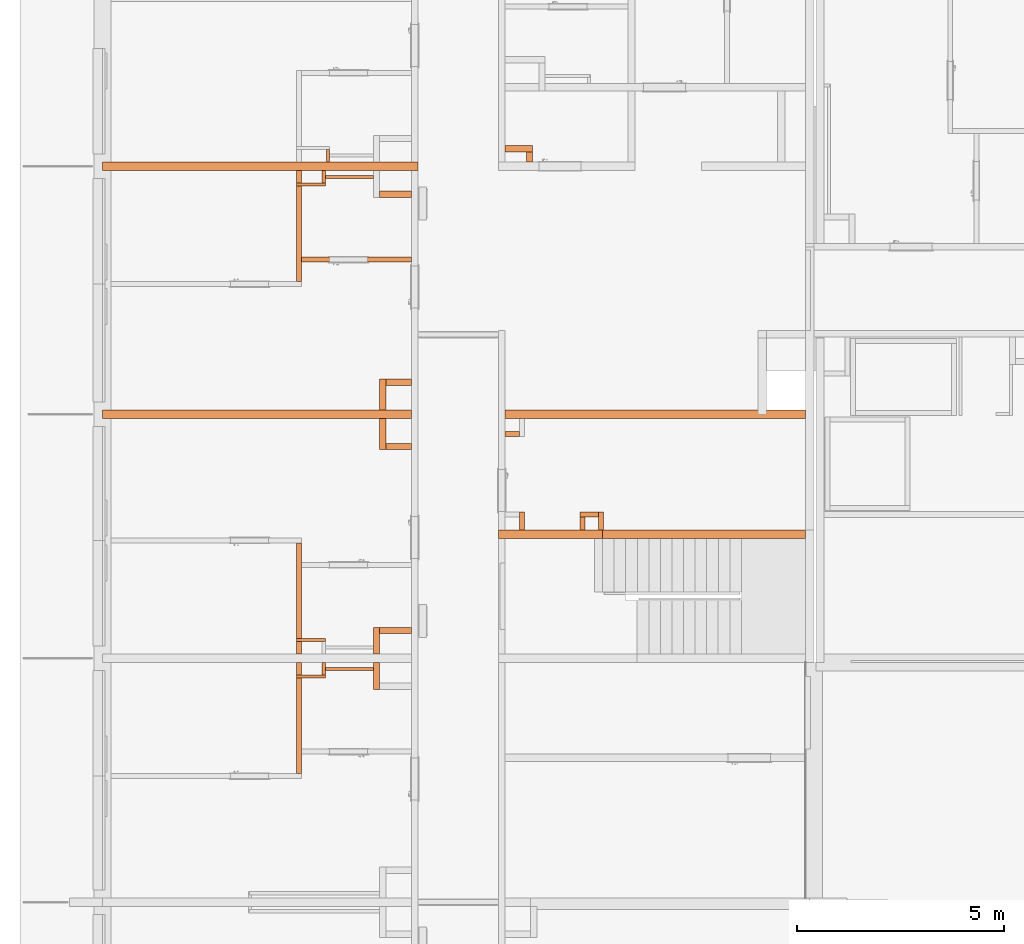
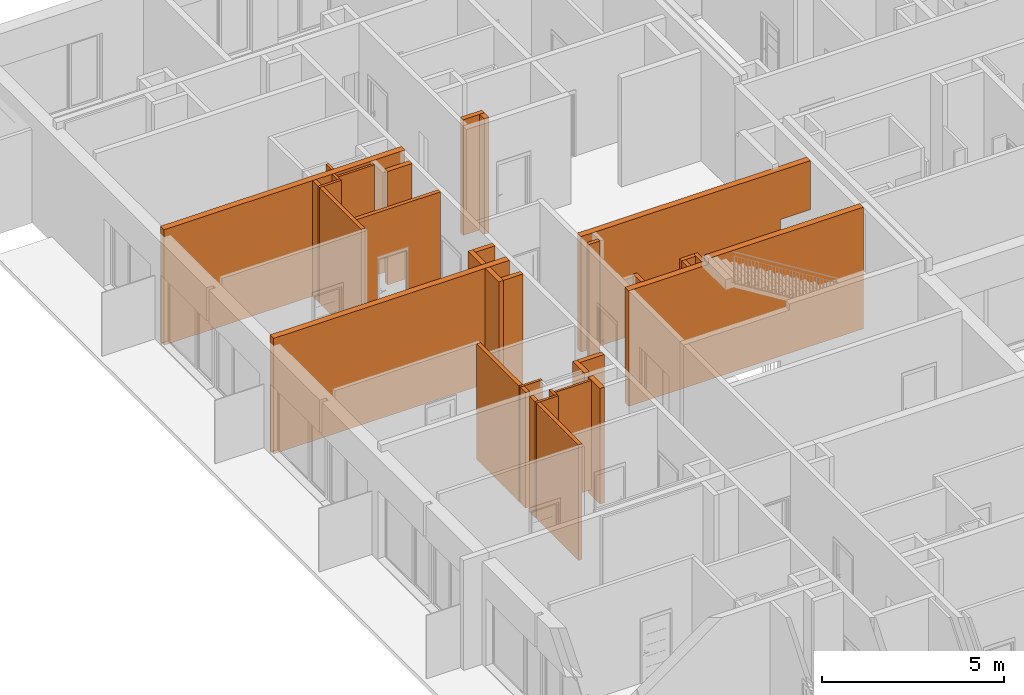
# One storey, part 31 of 46: 31 proxies, 2 openings.
"""IFC2X3 building model written with IfcOpenShell, lengths in millimetres."""

from ifc_helpers import new_model, entity, si_unit, converted_unit, derived_unit, money_unit, direction, frame, origin_with_axes, origin_2d_with_axis, place, context, subcontext, project, spatial, rectangle, extrude, faceted_brep, material, material_list, type_object, element, save


model = new_model("IFC2X3")

# Units and contexts
model_context = context("Model", 3, precision=0.01, world=origin_with_axes(), true_north=direction((0.34421633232, 0.938890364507)))
body_context = subcontext(model_context, "Body", "Model", "MODEL_VIEW")
ifc_project = project(units=[si_unit("LENGTHUNIT", "METRE", prefix="MILLI"), si_unit("AREAUNIT", "SQUARE_METRE"), si_unit("VOLUMEUNIT", "CUBIC_METRE"), converted_unit("PLANEANGLEUNIT", "DEGREE", entity("IfcPlaneAngleMeasure", 0.0174532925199), si_unit("PLANEANGLEUNIT", "RADIAN"), dimensions=[0, 0, 0, 0, 0, 0, 0]), si_unit("SOLIDANGLEUNIT", "STERADIAN"), money_unit("USD"), converted_unit("TIMEUNIT", "Year", entity("IfcTimeMeasure", 31556926.0), si_unit("TIMEUNIT", "SECOND"), dimensions=[0, 0, 1, 0, 0, 0, 0]), si_unit("MASSUNIT", "GRAM", prefix="KILO"), si_unit("THERMODYNAMICTEMPERATUREUNIT", "DEGREE_CELSIUS"), si_unit("LUMINOUSINTENSITYUNIT", "LUMEN"), si_unit("ENERGYUNIT", "JOULE", prefix="MEGA"), derived_unit("THERMALCONDUCTANCEUNIT", [(si_unit("POWERUNIT", "WATT"), 1), (si_unit("LENGTHUNIT", "METRE"), -1), (si_unit("THERMODYNAMICTEMPERATUREUNIT", "KELVIN"), -1)]), derived_unit("SPECIFICHEATCAPACITYUNIT", [(si_unit("ENERGYUNIT", "JOULE"), 1), (si_unit("MASSUNIT", "GRAM", prefix="KILO"), -1), (si_unit("THERMODYNAMICTEMPERATUREUNIT", "KELVIN"), -1)]), derived_unit("MASSDENSITYUNIT", [(si_unit("MASSUNIT", "GRAM", prefix="KILO"), 1), (si_unit("VOLUMEUNIT", "CUBIC_METRE"), -1)])], contexts=[model_context])

# Site, building, storey
site_placement = place(None, origin_with_axes())
site = spatial("IfcSite", under=ifc_project, at=site_placement, Name="USTRONIE MORSKIE", CompositionType="ELEMENT")
building_placement = place(site_placement, origin_with_axes())
building = spatial("IfcBuilding", under=site, at=building_placement, Name="Budynek", CompositionType="ELEMENT")
storey_placement = place(building_placement, origin_with_axes())
storey = spatial("IfcBuildingStorey", under=building, at=storey_placement, Name="PARTER", CompositionType="ELEMENT", Elevation=0.0)

# Proxy
ifc_material_1 = material(Name="Bloczki silikatowe")
building_element_proxy_type_1 = type_object("IfcBuildingElementProxyType", Name="Bloczki silikatowe 120", PredefinedType="NOTDEFINED")
proxy_1_placement = place(storey_placement, frame((354717.920919, 726901.198998, -230.0), z_axis=(0.0, 0.0, 1.0), x_axis=(0.0, -1.0, 0.0)))
element("IfcBuildingElementProxy", 1, at=proxy_1_placement, inside=storey, type_object=building_element_proxy_type_1, material=ifc_material_1, Name="SW-04", context=body_context, shape_type="Brep", body=[
    faceted_brep([(400.019117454, 60.0, 0.0), (99.9999622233, 60.0, 0.0), (99.9999622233, 60.0, 3869.99997616), (400.019117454, 60.0, 3870.0), (400.019117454, -60.0, 0.0), (99.9999622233, -60.0, 0.0), (99.9999622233, -60.0, 3869.99997616), (400.019117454, -60.0, 3870.0)], [[[0, 1, 2, 3]], [[4, 5, 1, 0]], [[5, 6, 2, 1]], [[3, 2, 6, 7]], [[4, 0, 3, 7]], [[7, 6, 5, 4]]]),
    faceted_brep([(480.019117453, 60.0, 3870.0), (480.019117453, -60.0, 3870.0), (2790.00063981, -60.0, 3870.0), (2790.00063981, 60.0, 3870.0), (480.019117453, 60.0, 0.0), (480.019117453, -60.0, 0.0), (2790.00063981, -60.0, 0.0), (2790.00063981, 60.0, 0.0)], [[[0, 1, 2, 3]], [[1, 0, 4, 5]], [[1, 5, 6, 2]], [[7, 3, 2, 6]], [[4, 0, 3, 7]], [[5, 4, 7, 6]]]),
])

# Proxy, opening
proxy_2_placement = place(storey_placement, frame((354717.920919, 736541.179047, -160.0), z_axis=(0.0, 0.0, 1.0), x_axis=(1.0, 0.0, 0.0)))
proxy_2 = element("IfcBuildingElementProxy", 2, at=proxy_2_placement, inside=storey, type_object=building_element_proxy_type_1, material=ifc_material_1, Name="SW-04", context=body_context, shape_type="Brep", body=[
    faceted_brep([(2720.0, -59.9999999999, 3800.0), (2720.0, 59.9999999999, 3800.0), (60.0, 59.9999999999, 3800.0), (60.0, -59.9999999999, 3800.0), (2720.0, -59.9999999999, 0.0), (2720.0, 59.9999999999, 0.0), (60.0, 59.9999999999, 0.0), (60.0, -59.9999999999, 0.0)], [[[0, 1, 2, 3]], [[1, 0, 4, 5]], [[1, 5, 6, 2]], [[7, 3, 2, 6]], [[4, 0, 3, 7]], [[5, 4, 7, 6]]]),
])
opening_1_placement = place(proxy_2_placement, frame((1200.0, 0.0, 160.0), z_axis=(0.0, 0.0, 1.0), x_axis=(1.0, 0.0, 0.0)))
element("IfcOpeningElement", 3, at=opening_1_placement, cuts=proxy_2, Name="Dw.4", context=body_context, shape_type="SweptSolid", body=[
    extrude(rectangle(XDim=920.0, YDim=2070.0, at=origin_2d_with_axis()), frame((0.0, 120.0, 1035.0), z_axis=(0.0, 1.0, 0.0), x_axis=(1.0, 0.0, 0.0)), (0.0, 0.0, -1.0), 360.0),
    extrude(rectangle(XDim=994.0, YDim=2177.0, at=origin_2d_with_axis()), frame((0.0, 60.0000000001, 1088.5), z_axis=(0.0, 1.0, 0.0), x_axis=(1.0, 0.0, 0.0)), (0.0, 0.0, 1.0), 120.0),
    extrude(rectangle(XDim=994.0, YDim=2177.0, at=origin_2d_with_axis()), frame((0.0, -59.9999999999, 1088.5), z_axis=(0.0, -1.0, 0.0), x_axis=(1.0, 0.0, 0.0)), (0.0, 0.0, 1.0), 120.0),
])

# Proxies
proxy_3_placement = place(storey_placement, frame((354717.920919, 738801.202745, -230.0), z_axis=(0.0, 0.0, 1.0), x_axis=(0.0, -1.0, 0.0)))
element("IfcBuildingElementProxy", 4, at=proxy_3_placement, inside=storey, type_object=building_element_proxy_type_1, material=ifc_material_1, Name="SW-04", context=body_context, shape_type="Brep", body=[
    faceted_brep([(400.022864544, 60.0, 0.0), (100.000087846, 59.9999999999, 0.0), (100.000087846, 59.9999999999, 3869.99997616), (400.022864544, 60.0, 3870.0), (400.022864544, -60.0, 0.0), (99.9999121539, -60.0000000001, 0.0), (99.9999121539, -60.0000000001, 3869.99997616), (400.022864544, -60.0, 3870.0)], [[[0, 1, 2, 3]], [[4, 5, 1, 0]], [[5, 6, 2, 1]], [[3, 2, 6, 7]], [[4, 0, 3, 7]], [[7, 6, 5, 4]]]),
    faceted_brep([(480.022864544, 60.0, 3870.0), (480.022864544, -60.0, 3870.0), (2790.0043869, -60.0, 3870.0), (2790.0043869, 60.0, 3870.0), (480.022864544, 60.0, 0.0), (480.022864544, -60.0, 0.0), (2790.0043869, -60.0, 0.0), (2790.0043869, 60.0, 0.0)], [[[0, 1, 2, 3]], [[1, 0, 4, 5]], [[1, 5, 6, 2]], [[7, 3, 2, 6]], [[4, 0, 3, 7]], [[5, 4, 7, 6]]]),
])
proxy_4_placement = place(storey_placement, frame((354717.920919, 726901.199074, -230.0), z_axis=(0.0, 0.0, 1.0), x_axis=(0.0, 1.0, 0.0)))
element("IfcBuildingElementProxy", 5, at=proxy_4_placement, inside=storey, type_object=building_element_proxy_type_1, material=ifc_material_1, Name="SW-04", context=body_context, shape_type="Brep", body=[
    faceted_brep([(2790.00063981, 60.0, 0.0), (2790.00063981, -60.0, 0.0), (480.019117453, -60.0, 0.0), (480.019117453, 60.0, 0.0), (2790.00063981, 60.0, 3870.0), (2790.00063981, -60.0, 3870.0), (480.019117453, -60.0, 3870.0), (480.019117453, 60.0, 3870.0)], [[[0, 1, 2, 3]], [[1, 0, 4, 5]], [[1, 5, 6, 2]], [[7, 3, 2, 6]], [[4, 0, 3, 7]], [[5, 4, 7, 6]]]),
    faceted_brep([(400.019117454, 60.0, 0.0), (400.019117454, -60.0, 0.0), (99.9999622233, -60.0, 0.0), (99.9999622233, 60.0, 0.0), (400.019117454, 60.0, 3870.0), (400.019117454, -60.0, 3870.0), (99.9999622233, -60.0, 3870.0), (99.9999622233, 60.0, 3870.0)], [[[0, 1, 2, 3]], [[1, 0, 4, 5]], [[1, 5, 6, 2]], [[7, 3, 2, 6]], [[4, 0, 3, 7]], [[5, 4, 7, 6]]]),
])
proxy_5_placement = place(storey_placement, frame((360047.920919, 732381.199036, -230.0), z_axis=(0.0, 0.0, 1.0), x_axis=(-1.0, 0.0, 0.0)))
element("IfcBuildingElementProxy", 6, at=proxy_5_placement, inside=storey, type_object=building_element_proxy_type_1, material=ifc_material_1, Name="SW-04", context=body_context, shape_type="Brep", body=[
    faceted_brep([(349.997353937, 120.0, 0.0), (349.997353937, 0.0, 0.0), (0.0, 0.0, 0.0), (0.0, 120.0, 0.0), (349.997353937, 120.0, 3870.0), (349.997353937, 0.0, 3870.0), (0.0, 0.0, 3870.0), (0.0, 120.0, 3870.0)], [[[0, 1, 2, 3]], [[1, 0, 4, 5]], [[1, 5, 6, 2]], [[7, 3, 2, 6]], [[4, 0, 3, 7]], [[5, 4, 7, 6]]]),
])
proxy_6_placement = place(storey_placement, frame((361957.920919, 729901.199036, -230.0), z_axis=(0.0, 0.0, 1.0), x_axis=(0.0, 1.0, 0.0)))
element("IfcBuildingElementProxy", 7, at=proxy_6_placement, inside=storey, type_object=building_element_proxy_type_1, material=ifc_material_1, Name="SW-04", context=body_context, shape_type="Brep", body=[
    faceted_brep([(540.0, -120.0, 3870.0), (540.0, 0.0, 3870.0), (99.9999999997, 0.0, 3870.0), (99.9999999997, -120.0, 3870.0), (540.0, -120.0, 0.0), (540.0, 0.0, 0.0), (99.9999999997, 0.0, 0.0), (99.9999999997, -120.0, 0.0)], [[[0, 1, 2, 3]], [[1, 0, 4, 5]], [[1, 5, 6, 2]], [[7, 3, 2, 6]], [[4, 0, 3, 7]], [[5, 4, 7, 6]]]),
])
proxy_7_placement = place(storey_placement, frame((361627.920919, 730321.199036, -230.0), z_axis=(0.0, 0.0, 1.0), x_axis=(0.0, -1.0, 0.0)))
element("IfcBuildingElementProxy", 8, at=proxy_7_placement, inside=storey, type_object=building_element_proxy_type_1, material=ifc_material_1, Name="SW-04", context=body_context, shape_type="Brep", body=[
    faceted_brep([(320.0, -120.0, 3870.0), (320.0, 0.0, 3870.0), (0.0, 0.0, 3870.0), (0.0, -120.0, 3870.0), (320.0, -120.0, 0.0), (320.0, 0.0, 0.0), (0.0, 0.0, 0.0), (0.0, -120.0, 0.0)], [[[0, 1, 2, 3]], [[1, 0, 4, 5]], [[1, 5, 6, 2]], [[7, 3, 2, 6]], [[4, 0, 3, 7]], [[5, 4, 7, 6]]]),
])
proxy_8_placement = place(storey_placement, frame((361957.920919, 730321.199036, -230.0), z_axis=(0.0, 0.0, 1.0), x_axis=(-1.0, 0.0, 0.0)))
element("IfcBuildingElementProxy", 9, at=proxy_8_placement, inside=storey, type_object=building_element_proxy_type_1, material=ifc_material_1, Name="SW-04", context=body_context, shape_type="Brep", body=[
    faceted_brep([(450.0, -120.0, 3870.0), (450.0, 0.0, 3870.0), (0.0, 0.0, 3870.0), (0.0, -120.0, 3870.0), (450.0, -120.0, 0.0), (450.0, 0.0, 0.0), (0.0, 0.0, 0.0), (0.0, -120.0, 0.0)], [[[0, 1, 2, 3]], [[1, 0, 4, 5]], [[1, 5, 6, 2]], [[7, 3, 2, 6]], [[4, 0, 3, 7]], [[5, 4, 7, 6]]]),
])
proxy_9_placement = place(storey_placement, frame((360047.920919, 729901.199036, -230.0), z_axis=(0.0, 0.0, 1.0), x_axis=(0.0, 1.0, 0.0)))
element("IfcBuildingElementProxy", 10, at=proxy_9_placement, inside=storey, type_object=building_element_proxy_type_1, material=ifc_material_1, Name="SW-04", context=body_context, shape_type="Brep", body=[
    faceted_brep([(540.0, -120.0, 3870.0), (540.0, 0.0, 3870.0), (99.9999999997, 0.0, 3870.0), (99.9999999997, -120.0, 3870.0), (540.0, -120.0, 0.0), (540.0, 0.0, 0.0), (99.9999999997, 0.0, 0.0), (99.9999999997, -120.0, 0.0)], [[[0, 1, 2, 3]], [[1, 0, 4, 5]], [[1, 5, 6, 2]], [[7, 3, 2, 6]], [[4, 0, 3, 7]], [[5, 4, 7, 6]]]),
])
ifc_material_2 = material(Name="-Pustka powietrzna")
ifc_material_3 = material(Name="Płyta GK")
ifc_material_list = material_list([ifc_material_2, ifc_material_3, ifc_material_3])
building_element_proxy_type_2 = type_object("IfcBuildingElementProxyType", Name="330-SD GK 2-warstwy 75", PredefinedType="NOTDEFINED")
proxy_10_placement = place(storey_placement, frame((355317.920919, 726631.200807, -180.0), z_axis=(0.0, 0.0, 1.0), x_axis=(1.0, 0.0, 0.0)))
element("IfcBuildingElementProxy", 11, at=proxy_10_placement, inside=storey, type_object=building_element_proxy_type_2, material=ifc_material_list, Name="Ściana-009", context=body_context, shape_type="Brep", body=[
    faceted_brep([(1199.99909883, 0.0, 180.0), (1199.99909883, 50.0, 180.0), (1199.99909883, 50.0, 3820.0), (1199.99909883, 0.0, 3820.0), (40.0, 50.0, 180.0), (40.0, 0.0, 180.0), (40.0, 50.0, 3820.0), (40.0, 0.0, 3820.0)], [[[0, 1, 2, 3]], [[4, 1, 0, 5]], [[1, 4, 6, 2]], [[3, 2, 6, 7]], [[5, 0, 3, 7]], [[4, 5, 7, 6]]]),
    faceted_brep([(1199.99909883, -12.5, 165.0), (1199.99909883, 0.0, 165.0), (1199.99909883, 0.0, 3820.0), (1199.99909883, -12.5, 3820.0), (40.0, 0.0, 165.0), (40.0, -12.5, 165.0), (40.0, 0.0, 3820.0), (40.0, -12.5, 3820.0)], [[[0, 1, 2, 3]], [[4, 1, 0, 5]], [[1, 4, 6, 2]], [[3, 2, 6, 7]], [[5, 0, 3, 7]], [[4, 5, 7, 6]]]),
    faceted_brep([(1199.99909883, -25.0, 165.0), (1199.99909883, -12.5, 165.0), (1199.99909883, -12.5, 3820.0), (1199.99909883, -25.0, 3820.0), (40.0, -12.5, 165.0), (40.0, -25.0, 165.0), (40.0, -12.5, 3820.0), (40.0, -25.0, 3820.0)], [[[0, 1, 2, 3]], [[4, 1, 0, 5]], [[1, 4, 6, 2]], [[3, 2, 6, 7]], [[5, 0, 3, 7]], [[4, 5, 7, 6]]]),
])
proxy_11_placement = place(storey_placement, frame((355317.920919, 738531.200389, -180.0), z_axis=(0.0, 0.0, 1.0), x_axis=(1.0, 0.0, 0.0)))
element("IfcBuildingElementProxy", 12, at=proxy_11_placement, inside=storey, type_object=building_element_proxy_type_2, material=ifc_material_list, Name="Ściana-009", context=body_context, shape_type="Brep", body=[
    faceted_brep([(1199.99909883, 0.0, 180.0), (1199.99909883, 50.0, 180.0), (1199.99909883, 50.0, 3820.0), (1199.99909883, 0.0, 3820.0), (40.0, 50.0, 180.0), (40.0, 0.0, 180.0), (40.0, 50.0, 3820.0), (40.0, 0.0, 3820.0)], [[[0, 1, 2, 3]], [[4, 1, 0, 5]], [[1, 4, 6, 2]], [[7, 3, 2, 6]], [[5, 0, 3, 7]], [[4, 5, 7, 6]]]),
    faceted_brep([(1199.99909883, -12.5, 165.0), (1199.99909883, 0.0, 165.0), (1199.99909883, 0.0, 3820.0), (1199.99909883, -12.5, 3820.0), (40.0, 0.0, 165.0), (40.0, -12.5, 165.0), (40.0, 0.0, 3820.0), (40.0, -12.5, 3820.0)], [[[0, 1, 2, 3]], [[4, 1, 0, 5]], [[1, 4, 6, 2]], [[7, 3, 2, 6]], [[5, 0, 3, 7]], [[4, 5, 7, 6]]]),
    faceted_brep([(1199.99909883, -25.0, 165.0), (1199.99909883, -12.5, 165.0), (1199.99909883, -12.5, 3820.0), (1199.99909883, -25.0, 3820.0), (40.0, -12.5, 165.0), (40.0, -25.0, 165.0), (40.0, -12.5, 3820.0), (40.0, -25.0, 3820.0)], [[[0, 1, 2, 3]], [[4, 1, 0, 5]], [[1, 4, 6, 2]], [[7, 3, 2, 6]], [[5, 0, 3, 7]], [[4, 5, 7, 6]]]),
])
building_element_proxy_type_3 = type_object("IfcBuildingElementProxyType", Name="Bloczki silikatowe 80", PredefinedType="NOTDEFINED")
proxy_12_placement = place(storey_placement, frame((355317.920919, 738801.19863, -230.0), z_axis=(0.0, 0.0, 1.0), x_axis=(0.0, -1.0, 0.0)))
element("IfcBuildingElementProxy", 13, at=proxy_12_placement, inside=storey, type_object=building_element_proxy_type_3, material=ifc_material_1, Name="Ściana-010", context=body_context, shape_type="Brep", body=[
    faceted_brep([(400.018748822, -40.0, 3870.0), (400.018748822, 40.0, 3870.0), (99.9968213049, 40.0, 3870.0), (99.9967041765, -40.0, 3870.0), (400.018748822, -40.0, 0.0), (400.018748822, 40.0, 0.0), (99.9968213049, 40.0, 0.0), (99.9967041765, -40.0, 0.0)], [[[0, 1, 2, 3]], [[1, 0, 4, 5]], [[1, 5, 6, 2]], [[7, 3, 2, 6]], [[4, 0, 3, 7]], [[5, 4, 7, 6]]]),
])
proxy_13_placement = place(storey_placement, frame((354717.920919, 727341.218191, -230.0), z_axis=(0.0, 0.0, 1.0), x_axis=(1.0, 0.0, 0.0)))
element("IfcBuildingElementProxy", 14, at=proxy_13_placement, inside=storey, type_object=building_element_proxy_type_3, material=ifc_material_1, Name="Ściana-009", context=body_context, shape_type="Brep", body=[
    faceted_brep([(640.0, 40.0, 0.0), (640.0, -40.0, 0.0), (-60.0, -40.0, 0.0), (-60.0, 40.0, 0.0), (640.0, 40.0, 3870.0), (640.0, -40.0, 3870.0), (-60.0, -40.0, 3870.0), (-60.0, 40.0, 3870.0)], [[[0, 1, 2, 3]], [[1, 0, 4, 5]], [[1, 5, 6, 2]], [[7, 3, 2, 6]], [[4, 0, 3, 7]], [[5, 4, 7, 6]]]),
])
proxy_14_placement = place(storey_placement, frame((354717.920919, 738361.179881, -230.0), z_axis=(0.0, 0.0, 1.0), x_axis=(1.0, 0.0, 0.0)))
element("IfcBuildingElementProxy", 15, at=proxy_14_placement, inside=storey, type_object=building_element_proxy_type_3, material=ifc_material_1, Name="Ściana-009", context=body_context, shape_type="Brep", body=[
    faceted_brep([(640.0, -40.0, 3870.0), (640.0, 40.0, 3870.0), (-60.0, 40.0, 3870.0), (-60.0, -40.0, 3870.0), (640.0, -40.0, 0.0), (640.0, 40.0, 0.0), (-60.0, 40.0, 0.0), (-60.0, -40.0, 0.0)], [[[0, 1, 2, 3]], [[1, 0, 4, 5]], [[1, 5, 6, 2]], [[7, 3, 2, 6]], [[4, 0, 3, 7]], [[5, 4, 7, 6]]]),
])
proxy_15_placement = place(storey_placement, frame((355417.920919, 738801.19863, -230.0), z_axis=(0.0, 0.0, 1.0), x_axis=(0.0, 1.0, 0.0)))
element("IfcBuildingElementProxy", 16, at=proxy_15_placement, inside=storey, type_object=building_element_proxy_type_3, material=ifc_material_1, Name="Ściana-010", context=body_context, shape_type="Brep", body=[
    faceted_brep([(400.019561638, 40.0, 0.0), (400.019561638, -40.0, 0.0), (100.003032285, -40.0, 0.0), (100.003149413, 40.0, 0.0), (400.019561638, 40.0, 3870.0), (400.019561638, -40.0, 3870.0), (100.003032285, -40.0, 3870.0), (100.003149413, 40.0, 3870.0)], [[[0, 1, 2, 3]], [[1, 0, 4, 5]], [[1, 5, 6, 2]], [[7, 3, 2, 6]], [[4, 0, 3, 7]], [[5, 4, 7, 6]]]),
])
proxy_16_placement = place(storey_placement, frame((354717.920919, 726461.179881, -230.0), z_axis=(0.0, 0.0, 1.0), x_axis=(1.0, 0.0, 0.0)))
element("IfcBuildingElementProxy", 17, at=proxy_16_placement, inside=storey, type_object=building_element_proxy_type_3, material=ifc_material_1, Name="Ściana-009", context=body_context, shape_type="Brep", body=[
    faceted_brep([(640.0, -40.0, 3870.0), (640.0, 40.0, 3870.0), (-60.0, 40.0, 3870.0), (-60.0, -40.0, 3870.0), (640.0, -40.0, 0.0), (640.0, 40.0, 0.0), (-60.0, 40.0, 0.0), (-60.0, -40.0, 0.0)], [[[0, 1, 2, 3]], [[1, 0, 4, 5]], [[1, 5, 6, 2]], [[7, 3, 2, 6]], [[4, 0, 3, 7]], [[5, 4, 7, 6]]]),
])
proxy_17_placement = place(storey_placement, frame((355317.920919, 726901.199036, -230.0), z_axis=(0.0, 0.0, 1.0), x_axis=(0.0, -1.0, 0.0)))
element("IfcBuildingElementProxy", 18, at=proxy_17_placement, inside=storey, type_object=building_element_proxy_type_3, material=ifc_material_1, Name="Ściana-010", context=body_context, shape_type="Brep", body=[
    faceted_brep([(400.01915523, 40.0, 0.0), (100.0, 40.0, 0.0), (100.0, 40.0, 3869.99997616), (400.01915523, 40.0, 3870.0), (400.01915523, -40.0, 0.0), (100.0, -40.0, 0.0), (100.0, -40.0, 3869.99997616), (400.01915523, -40.0, 3870.0)], [[[0, 1, 2, 3]], [[4, 5, 1, 0]], [[5, 6, 2, 1]], [[3, 2, 6, 7]], [[4, 0, 3, 7]], [[7, 6, 5, 4]]]),
])
building_element_proxy_type_4 = type_object("IfcBuildingElementProxyType", Name="Bloczki silikatowe 150", PredefinedType="NOTDEFINED")
proxy_18_placement = place(storey_placement, frame((356817.920919, 732801.199074, -230.0), z_axis=(0.0, 0.0, 1.0), x_axis=(0.0, -1.0, 0.0)))
element("IfcBuildingElementProxy", 19, at=proxy_18_placement, inside=storey, type_object=building_element_proxy_type_4, material=ifc_material_1, Name="SW-03", context=body_context, shape_type="Brep", body=[
    faceted_brep([(850.000037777, 0.0, 0.0), (100.000037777, 0.0, 0.0), (100.000037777, 0.0, 3869.99997616), (850.000037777, 0.0, 3870.0), (850.000037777, -150.0, 0.0), (100.000037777, -150.0, 0.0), (100.000037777, -150.0, 3869.99997616), (850.000037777, -150.0, 3870.0)], [[[0, 1, 2, 3]], [[4, 5, 1, 0]], [[5, 6, 2, 1]], [[3, 2, 6, 7]], [[4, 0, 3, 7]], [[7, 6, 5, 4]]]),
])
proxy_19_placement = place(storey_placement, frame((356817.920919, 732101.199036, -230.0), z_axis=(0.0, 0.0, 1.0), x_axis=(1.0, 0.0, 0.0)))
element("IfcBuildingElementProxy", 20, at=proxy_19_placement, inside=storey, type_object=building_element_proxy_type_4, material=ifc_material_1, Name="SW-03", context=body_context, shape_type="Brep", body=[
    faceted_brep([(620.0, -150.0, 3870.0), (620.0, 0.0, 3870.0), (0.0, 0.0, 3870.0), (0.0, -150.0, 3870.0), (620.0, -150.0, 0.0), (620.0, 0.0, 0.0), (0.0, 0.0, 0.0), (0.0, -150.0, 0.0)], [[[0, 1, 2, 3]], [[1, 0, 4, 5]], [[1, 5, 6, 2]], [[7, 3, 2, 6]], [[4, 0, 3, 7]], [[5, 4, 7, 6]]]),
])
proxy_20_placement = place(storey_placement, frame((356592.920018, 727576.199909, -230.0), z_axis=(0.0, 0.0, 1.0), x_axis=(1.0, 0.0, 0.0)))
element("IfcBuildingElementProxy", 21, at=proxy_20_placement, inside=storey, type_object=building_element_proxy_type_4, material=ifc_material_1, Name="Ściana-009", context=body_context, shape_type="Brep", body=[
    faceted_brep([(845.00090117, 75.0, 0.0), (845.00090117, -75.0, 0.0), (75.0, -75.0, 0.0), (75.0, 75.0, 0.0), (845.00090117, 75.0, 3870.0), (845.00090117, -75.0, 3870.0), (75.0, -75.0, 3870.0), (75.0, 75.0, 3870.0)], [[[0, 1, 2, 3]], [[1, 0, 4, 5]], [[1, 5, 6, 2]], [[7, 3, 2, 6]], [[4, 0, 3, 7]], [[5, 4, 7, 6]]]),
])
proxy_21_placement = place(storey_placement, frame((356592.920018, 726901.199036, -230.0), z_axis=(0.0, 0.0, 1.0), x_axis=(0.0, -1.0, 0.0)))
element("IfcBuildingElementProxy", 22, at=proxy_21_placement, inside=storey, type_object=building_element_proxy_type_4, material=ifc_material_1, Name="Ściana-009", context=body_context, shape_type="Brep", body=[
    faceted_brep([(750.000884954, 75.0, 0.0), (100.0, 75.0, 0.0), (100.0, 75.0, 3869.99997616), (750.000884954, 75.0, 3870.0), (750.000884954, -75.0, 0.0), (100.0, -75.0, 0.0), (100.0, -75.0, 3869.99997616), (750.000884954, -75.0, 3870.0)], [[[0, 1, 2, 3]], [[4, 5, 1, 0]], [[5, 6, 2, 1]], [[3, 2, 6, 7]], [[4, 0, 3, 7]], [[7, 6, 5, 4]]]),
])
proxy_22_placement = place(storey_placement, frame((356817.920919, 732801.198998, -230.0), z_axis=(0.0, 0.0, 1.0), x_axis=(0.0, 1.0, 0.0)))
element("IfcBuildingElementProxy", 23, at=proxy_22_placement, inside=storey, type_object=building_element_proxy_type_4, material=ifc_material_1, Name="SW-03", context=body_context, shape_type="Brep", body=[
    faceted_brep([(850.000037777, 150.0, 0.0), (850.000037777, 0.0, 0.0), (100.000037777, 0.0, 0.0), (100.000037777, 150.0, 0.0), (850.000037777, 150.0, 3870.0), (850.000037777, 0.0, 3870.0), (100.000037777, 0.0, 3870.0), (100.000037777, 150.0, 3870.0)], [[[0, 1, 2, 3]], [[1, 0, 4, 5]], [[1, 5, 6, 2]], [[7, 3, 2, 6]], [[4, 0, 3, 7]], [[5, 4, 7, 6]]]),
])
proxy_23_placement = place(storey_placement, frame((356592.920018, 738126.197761, -160.0), z_axis=(0.0, 0.0, 1.0), x_axis=(1.0, 0.0, 0.0)))
element("IfcBuildingElementProxy", 24, at=proxy_23_placement, inside=storey, type_object=building_element_proxy_type_4, material=ifc_material_1, Name="SW-03", context=body_context, shape_type="Brep", body=[
    faceted_brep([(845.00090117, -75.0, 3800.0), (845.00090117, 75.0, 3800.0), (75.0, 75.0, 3800.0), (75.0, -75.0, 3800.0), (845.00090117, -75.0, 0.0), (845.00090117, 75.0, 0.0), (75.0, 75.0, 0.0), (75.0, -75.0, 0.0)], [[[0, 1, 2, 3]], [[1, 0, 4, 5]], [[1, 5, 6, 2]], [[7, 3, 2, 6]], [[4, 0, 3, 7]], [[5, 4, 7, 6]]]),
])
proxy_24_placement = place(storey_placement, frame((356592.920018, 726901.199036, -230.0), z_axis=(0.0, 0.0, 1.0), x_axis=(0.0, 1.0, 0.0)))
element("IfcBuildingElementProxy", 25, at=proxy_24_placement, inside=storey, type_object=building_element_proxy_type_4, material=ifc_material_1, Name="Ściana-009", context=body_context, shape_type="Brep", body=[
    faceted_brep([(750.000872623, 75.0, 0.0), (750.000872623, -75.0, 0.0), (100.0, -75.0, 0.0), (100.0, 75.0, 0.0), (750.000872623, 75.0, 3870.0), (750.000872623, -75.0, 3870.0), (100.0, -75.0, 3870.0), (100.0, 75.0, 3870.0)], [[[0, 1, 2, 3]], [[1, 0, 4, 5]], [[1, 5, 6, 2]], [[7, 3, 2, 6]], [[4, 0, 3, 7]], [[5, 4, 7, 6]]]),
])
proxy_25_placement = place(storey_placement, frame((356817.920919, 733501.199036, -230.0), z_axis=(0.0, 0.0, 1.0), x_axis=(1.0, 0.0, 0.0)))
element("IfcBuildingElementProxy", 26, at=proxy_25_placement, inside=storey, type_object=building_element_proxy_type_4, material=ifc_material_1, Name="SW-03", context=body_context, shape_type="Brep", body=[
    faceted_brep([(620.0, 150.0, 0.0), (620.0, 0.0, 0.0), (0.0, 0.0, 0.0), (0.0, 150.0, 0.0), (620.0, 150.0, 3870.0), (620.0, 0.0, 3870.0), (0.0, 0.0, 3870.0), (0.0, 150.0, 3870.0)], [[[0, 1, 2, 3]], [[1, 0, 4, 5]], [[1, 5, 6, 2]], [[7, 3, 2, 6]], [[4, 0, 3, 7]], [[5, 4, 7, 6]]]),
])
proxy_26_placement = place(storey_placement, frame((360292.922714, 739226.199937, -230.0), z_axis=(0.0, 0.0, 1.0), x_axis=(-1.0, 0.0, 0.0)))
element("IfcBuildingElementProxy", 27, at=proxy_26_placement, inside=storey, type_object=building_element_proxy_type_4, material=ifc_material_1, Name="SW-04", context=body_context, shape_type="Brep", body=[
    faceted_brep([(594.999148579, -75.0, 3870.0), (594.999148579, 75.0, 3870.0), (-75.0, 75.0, 3870.0), (-75.0, -75.0, 3870.0), (594.999148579, -75.0, 0.0), (594.999148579, 75.0, 0.0), (-75.0, 75.0, 0.0), (-75.0, -75.0, 0.0)], [[[0, 1, 2, 3]], [[1, 0, 4, 5]], [[1, 5, 6, 2]], [[7, 3, 2, 6]], [[4, 0, 3, 7]], [[5, 4, 7, 6]]]),
])
proxy_27_placement = place(storey_placement, frame((360292.922714, 738801.199036, -230.0), z_axis=(0.0, 0.0, 1.0), x_axis=(0.0, 1.0, 0.0)))
element("IfcBuildingElementProxy", 28, at=proxy_27_placement, inside=storey, type_object=building_element_proxy_type_4, material=ifc_material_1, Name="SW-04", context=body_context, shape_type="Brep", body=[
    faceted_brep([(350.00090117, -75.0, 3870.0), (350.00090117, 75.0, 3870.0), (100.0, 75.0, 3870.0), (100.0, -75.0, 3870.0), (350.00090117, -75.0, 0.0), (350.00090117, 75.0, 0.0), (100.0, 75.0, 0.0), (100.0, -75.0, 0.0)], [[[0, 1, 2, 3]], [[1, 0, 4, 5]], [[1, 5, 6, 2]], [[7, 3, 2, 6]], [[4, 0, 3, 7]], [[5, 4, 7, 6]]]),
])
ifc_material_4 = material(Name="Beton konstrukcyjny B25")
building_element_proxy_type_5 = type_object("IfcBuildingElementProxyType", Name="Beton konstrukcyjny B25 200", PredefinedType="NOTDEFINED")
proxy_28_placement = place(storey_placement, frame((350067.920919, 732801.199036, -230.0), z_axis=(0.0, 0.0, 1.0), x_axis=(1.0, 0.0, 0.0)))
element("IfcBuildingElementProxy", 29, at=proxy_28_placement, inside=storey, type_object=building_element_proxy_type_5, material=ifc_material_4, Name="SW-01", context=body_context, shape_type="Brep", body=[
    faceted_brep([(7370.0, 100.0, 0.0), (-100.0, 100.0, 0.0), (-100.0, 100.0, 3870.0), (7370.0, 100.0, 3870.0), (7370.0, -99.9999999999, 0.0), (-100.0, -100.0, 0.0), (-100.0, -100.0, 3870.0), (7370.0, -99.9999999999, 3870.0)], [[[0, 1, 2, 3]], [[4, 5, 1, 0]], [[2, 1, 5, 6]], [[3, 2, 6, 7]], [[4, 0, 3, 7]], [[6, 5, 4, 7]]]),
])
proxy_29_placement = place(storey_placement, frame((357517.920919, 738801.198646, -230.0), z_axis=(0.0, 0.0, 1.0), x_axis=(-0.999999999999, 1.46410475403e-06, 0.0)))
element("IfcBuildingElementProxy", 30, at=proxy_29_placement, inside=storey, type_object=building_element_proxy_type_5, material=ifc_material_4, Name="SW-01", context=body_context, shape_type="Brep", body=[
    faceted_brep([(-79.9998535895, -100.0, 0.0), (7550.00014642, -100.0, 0.0), (7550.00014642, -100.0, 3870.0), (-79.9998535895, -100.0, 3870.0), (-80.0001464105, 100.0, 0.0), (7549.9998536, 100.0, 0.0), (7549.9998536, 100.0, 3870.0), (-80.0001464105, 100.0, 3870.0)], [[[0, 1, 2, 3]], [[4, 5, 1, 0]], [[2, 1, 5, 6]], [[3, 2, 6, 7]], [[4, 0, 3, 7]], [[6, 5, 4, 7]]]),
])

# Proxy, opening
proxy_30_placement = place(storey_placement, frame((367067.920919, 732801.199036, -230.0), z_axis=(0.0, 0.0, 1.0), x_axis=(-1.0, 0.0, 0.0)))
proxy_30 = element("IfcBuildingElementProxy", 31, at=proxy_30_placement, inside=storey, type_object=building_element_proxy_type_5, material=ifc_material_4, Name="SW-01", context=body_context, shape_type="Brep", body=[
    faceted_brep([(7369.99735394, 100.0, 0.0), (7369.99735394, -100.0, 0.0), (100.0, -100.0, 0.0), (100.0, 100.0, 0.0), (7369.99735394, 100.0, 3870.0), (7369.99735394, -100.0, 3870.0), (100.0, -100.0, 3870.0), (100.0, 100.0, 3870.0)], [[[0, 1, 2, 3]], [[1, 0, 4, 5]], [[1, 5, 6, 2]], [[7, 3, 2, 6]], [[4, 0, 3, 7]], [[5, 4, 7, 6]]]),
])
opening_2_placement = place(proxy_30_placement, frame((575.001804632, 1.13686837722e-10, 230.0), z_axis=(0.0, 0.0, 1.0), x_axis=(1.0, 0.0, 0.0)))
element("IfcOpeningElement", 32, at=opening_2_placement, cuts=proxy_30, Name="xx", context=body_context, shape_type="SweptSolid", body=[
    extrude(rectangle(XDim=950.005444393, YDim=2000.0, at=origin_2d_with_axis()), frame((0.0, 100.0, 1000.0), z_axis=(0.0, -1.0, 0.0), x_axis=(1.0, 0.0, 0.0)), (0.0, 0.0, -1.0), 200.0),
    extrude(rectangle(XDim=950.005444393, YDim=2000.0, at=origin_2d_with_axis()), frame((0.0, 100.0, 1000.0), z_axis=(0.0, 1.0, 0.0), x_axis=(1.0, 0.0, 0.0)), (0.0, 0.0, -1.0), 200.0),
])

# Proxy
proxy_31_placement = place(storey_placement, frame((367067.920919, 729901.199036, -230.0), z_axis=(0.0, 0.0, 1.0), x_axis=(-1.0, 0.0, 0.0)))
element("IfcBuildingElementProxy", 33, at=proxy_31_placement, inside=storey, type_object=building_element_proxy_type_5, material=ifc_material_4, Name="SW-01", context=body_context, shape_type="Brep", body=[
    faceted_brep([(7529.99735394, -100.0, 3870.0), (7449.99735394, -100.0, 3870.0), (5010.0, -99.9999569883, 3870.0), (5010.0, -99.9999569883, 4070.0), (100.0, -100.0, 4070.0), (100.0, -100.0, 0.0), (7529.99735394, -100.0, 0.0), (7529.99735394, 100.0, 3870.0), (7449.99735394, 100.0, 3870.0), (5010.0, 100.0, 3870.0), (5010.0, 100.0, 4070.0), (100.0, 100.0, 4070.0), (100.0, 100.0, 0.0), (7529.99735394, 100.0, 0.0)], [[[0, 1, 2, 3, 4, 5, 6]], [[7, 8, 1, 0]], [[9, 2, 1, 8]], [[9, 10, 3, 2]], [[4, 3, 10, 11]], [[4, 11, 12, 5]], [[13, 6, 5, 12]], [[0, 6, 13, 7]], [[10, 9, 8, 7, 13, 12, 11]]]),
])

save(model, "model.ifc")
